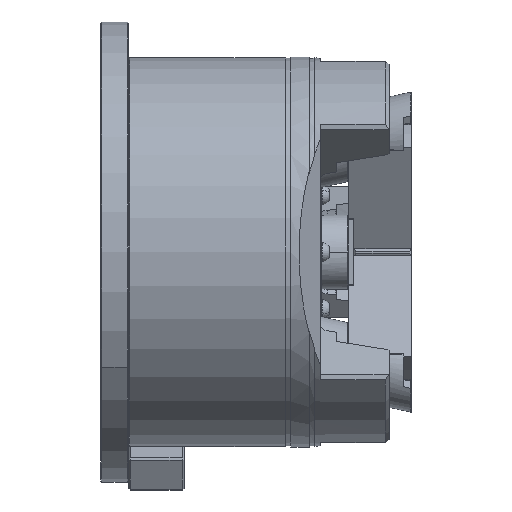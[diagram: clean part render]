
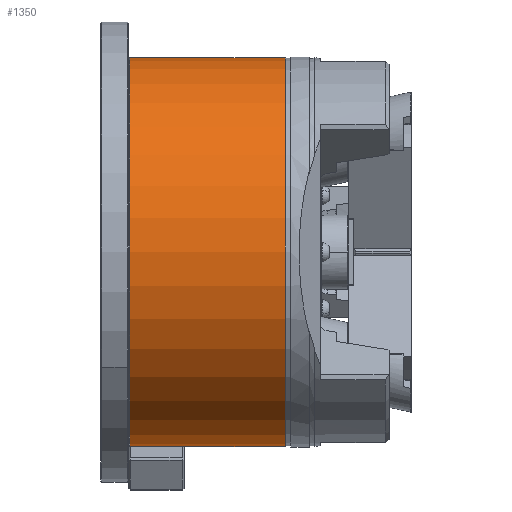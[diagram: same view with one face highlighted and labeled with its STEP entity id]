
A CAD part, front view. The second image highlights one B-rep face of the part: STEP entity #1350.
In plain terms, the highlighted cylindrical face has radius 104.75 mm (diameter 209.5 mm), a partial arc.
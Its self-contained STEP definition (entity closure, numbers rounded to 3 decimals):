
#523 = ORIENTED_EDGE ( 'NONE', *, *, #10481, .T. ) ;
#1350 = ADVANCED_FACE ( 'NONE', ( #43061 ), #38169, .T. ) ;
#1710 = DIRECTION ( 'NONE',  ( 1., 0., 0. ) ) ;
#2062 = ORIENTED_EDGE ( 'NONE', *, *, #45301, .T. ) ;
#3191 = CIRCLE ( 'NONE', #48101, 104.75 ) ;
#3522 = DIRECTION ( 'NONE',  ( 1., 0., 0. ) ) ;
#7581 = CIRCLE ( 'NONE', #50333, 104.75 ) ;
#8607 = ORIENTED_EDGE ( 'NONE', *, *, #37601, .F. ) ;
#9135 = VERTEX_POINT ( 'NONE', #25828 ) ;
#9483 = VECTOR ( 'NONE', #43448, 1000. ) ;
#10481 = EDGE_CURVE ( 'NONE', #21956, #33387, #40240, .T. ) ;
#10674 = LINE ( 'NONE', #27882, #9483 ) ;
#12673 = AXIS2_PLACEMENT_3D ( 'NONE', #30437, #3522, #24122 ) ;
#17319 = DIRECTION ( 'NONE',  ( 1., 0., 0. ) ) ;
#19293 = DIRECTION ( 'NONE',  ( 1., 0., 0. ) ) ;
#20846 = ORIENTED_EDGE ( 'NONE', *, *, #25970, .F. ) ;
#21216 = CARTESIAN_POINT ( 'NONE',  ( -102.4, 0., -104.75 ) ) ;
#21956 = VERTEX_POINT ( 'NONE', #21216 ) ;
#24122 = DIRECTION ( 'NONE',  ( 0., 0., -1. ) ) ;
#25828 = CARTESIAN_POINT ( 'NONE',  ( -102.4, 0., 104.75 ) ) ;
#25970 = EDGE_CURVE ( 'NONE', #26680, #33387, #7581, .T. ) ;
#26680 = VERTEX_POINT ( 'NONE', #36924 ) ;
#27882 = CARTESIAN_POINT ( 'NONE',  ( 63.843, 0., 104.75 ) ) ;
#30437 = CARTESIAN_POINT ( 'NONE',  ( 63.843, 0., 0. ) ) ;
#30672 = CARTESIAN_POINT ( 'NONE',  ( -18.5, 0., -104.75 ) ) ;
#31711 = CARTESIAN_POINT ( 'NONE',  ( 63.843, 0., -104.75 ) ) ;
#33387 = VERTEX_POINT ( 'NONE', #30672 ) ;
#36924 = CARTESIAN_POINT ( 'NONE',  ( -18.5, 0., 104.75 ) ) ;
#37601 = EDGE_CURVE ( 'NONE', #9135, #26680, #10674, .T. ) ;
#38169 = CYLINDRICAL_SURFACE ( 'NONE', #12673, 104.75 ) ;
#39582 = EDGE_LOOP ( 'NONE', ( #8607, #2062, #523, #20846 ) ) ;
#40240 = LINE ( 'NONE', #31711, #49348 ) ;
#40712 = CARTESIAN_POINT ( 'NONE',  ( -102.4, 0., 0. ) ) ;
#42702 = CARTESIAN_POINT ( 'NONE',  ( -18.5, 0., 0. ) ) ;
#43061 = FACE_OUTER_BOUND ( 'NONE', #39582, .T. ) ;
#43448 = DIRECTION ( 'NONE',  ( 1., 0., 0. ) ) ;
#44635 = DIRECTION ( 'NONE',  ( 0., 0., -1. ) ) ;
#45301 = EDGE_CURVE ( 'NONE', #9135, #21956, #3191, .T. ) ;
#46613 = DIRECTION ( 'NONE',  ( 0., 0., -1. ) ) ;
#48101 = AXIS2_PLACEMENT_3D ( 'NONE', #40712, #17319, #44635 ) ;
#49348 = VECTOR ( 'NONE', #1710, 1000. ) ;
#50333 = AXIS2_PLACEMENT_3D ( 'NONE', #42702, #19293, #46613 ) ;
